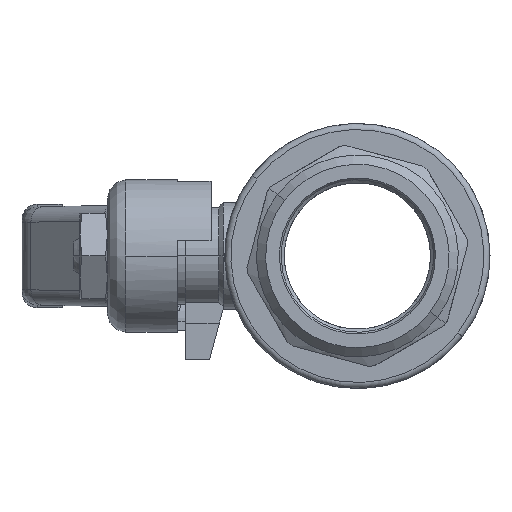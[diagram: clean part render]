
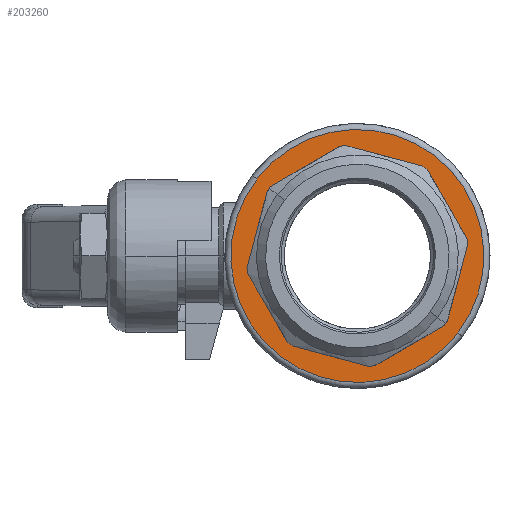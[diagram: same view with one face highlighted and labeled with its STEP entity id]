
A CAD part, left-side view. The second image highlights one B-rep face of the part: STEP entity #203260.
In plain terms, the highlighted planar face has unit normal (-1, 0, 0) as drawn and (1, 0, 0) by its records, which use the part's own axes.
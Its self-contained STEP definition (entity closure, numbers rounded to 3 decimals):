
#196640=CARTESIAN_POINT('',(20.,10.676,14.74));
#196650=VERTEX_POINT('',#196640);
#196680=CARTESIAN_POINT('',(20.,0.,
0.));
#196690=DIRECTION('',(1.,0.,0.));
#196700=DIRECTION('',(0.,-0.793,
0.609));
#196710=AXIS2_PLACEMENT_3D('',#196680,#196690,#196700);
#196720=CIRCLE('',#196710,18.2);
#196730=CARTESIAN_POINT('',(20.,11.471,14.13));
#196740=VERTEX_POINT('',#196730);
#196750=EDGE_CURVE('',#196740,#196650,#196720,.T.);
#196880=CARTESIAN_POINT('',(20.,11.2,14.6));
#196890=DIRECTION('',(0.,0.5,
-0.866));
#196900=VECTOR('',#196890,1.);
#196910=LINE('',#196880,#196900);
#196920=CARTESIAN_POINT('',(20.,17.972,2.874));
#196930=VERTEX_POINT('',#196920);
#196940=EDGE_CURVE('',#196740,#196930,#196910,.T.);
#197120=CARTESIAN_POINT('',(20.,0.,
0.));
#197130=DIRECTION('',(1.,0.,0.));
#197140=DIRECTION('',(0.,-0.793,
0.609));
#197150=AXIS2_PLACEMENT_3D('',#197120,#197130,#197140);
#197160=CIRCLE('',#197150,18.2);
#197170=CARTESIAN_POINT('',(20.,18.103,1.88));
#197180=VERTEX_POINT('',#197170);
#197190=EDGE_CURVE('',#197180,#196930,#197160,.T.);
#197320=CARTESIAN_POINT('',(20.,14.6,-11.2));
#197330=DIRECTION('',(0.,-0.259,
-0.966));
#197340=VECTOR('',#197330,1.);
#197350=LINE('',#197320,#197340);
#197360=CARTESIAN_POINT('',(20.,14.74,-10.676));
#197370=VERTEX_POINT('',#197360);
#197380=EDGE_CURVE('',#197180,#197370,#197350,.T.);
#197560=CARTESIAN_POINT('',(20.,0.,
0.));
#197570=DIRECTION('',(1.,0.,0.));
#197580=DIRECTION('',(0.,-0.793,
0.609));
#197590=AXIS2_PLACEMENT_3D('',#197560,#197570,#197580);
#197600=CIRCLE('',#197590,18.2);
#197610=CARTESIAN_POINT('',(20.,14.441,-11.077));
#197620=VERTEX_POINT('',#197610);
#197630=EDGE_CURVE('',#197620,#197370,#197600,.T.);
#197840=CARTESIAN_POINT('',(20.,2.874,-17.972));
#197850=VERTEX_POINT('',#197840);
#197900=CARTESIAN_POINT('',(20.,0.,
0.));
#197910=DIRECTION('',(1.,0.,0.));
#197920=DIRECTION('',(0.,-0.793,
0.609));
#197930=AXIS2_PLACEMENT_3D('',#197900,#197910,#197920);
#197940=CIRCLE('',#197930,18.2);
#197950=CARTESIAN_POINT('',(20.,1.88,-18.103));
#197960=VERTEX_POINT('',#197950);
#197970=EDGE_CURVE('',#197960,#197850,#197940,.T.);
#198230=CARTESIAN_POINT('',(20.,-11.2,-14.6));
#198240=DIRECTION('',(0.,-0.966,
0.259));
#198250=VECTOR('',#198240,1.);
#198260=LINE('',#198230,#198250);
#198270=CARTESIAN_POINT('',(20.,-10.676,-14.74));
#198280=VERTEX_POINT('',#198270);
#198290=EDGE_CURVE('',#197960,#198280,#198260,.T.);
#199010=CARTESIAN_POINT('',(20.,0.,
0.));
#199020=DIRECTION('',(1.,0.,0.));
#199030=DIRECTION('',(0.,-0.793,
0.609));
#199040=AXIS2_PLACEMENT_3D('',#199010,#199020,#199030);
#199050=CIRCLE('',#199040,18.2);
#199060=CARTESIAN_POINT('',(20.,-11.471,-14.13));
#199070=VERTEX_POINT('',#199060);
#199080=EDGE_CURVE('',#199070,#198280,#199050,.T.);
#199340=CARTESIAN_POINT('',(20.,-11.2,-14.6));
#199350=DIRECTION('',(0.,-0.5,
0.866));
#199360=VECTOR('',#199350,1.);
#199370=LINE('',#199340,#199360);
#199380=CARTESIAN_POINT('',(20.,-17.972,-2.874));
#199390=VERTEX_POINT('',#199380);
#199400=EDGE_CURVE('',#199070,#199390,#199370,.T.);
#200150=CARTESIAN_POINT('',(20.,14.13,-11.471));
#200160=VERTEX_POINT('',#200150);
#200210=CARTESIAN_POINT('',(20.,14.6,-11.2));
#200220=DIRECTION('',(0.,-0.866,
-0.5));
#200230=VECTOR('',#200220,1.);
#200240=LINE('',#200210,#200230);
#200250=EDGE_CURVE('',#200160,#197850,#200240,.T.);
#200930=CARTESIAN_POINT('',(20.,-2.874,17.972));
#200940=VERTEX_POINT('',#200930);
#200970=CARTESIAN_POINT('',(20.,0.,
0.));
#200980=DIRECTION('',(1.,0.,0.));
#200990=DIRECTION('',(0.,-0.793,
0.609));
#201000=AXIS2_PLACEMENT_3D('',#200970,#200980,#200990);
#201010=CIRCLE('',#201000,18.2);
#201020=CARTESIAN_POINT('',(20.,-1.88,18.103));
#201030=VERTEX_POINT('',#201020);
#201040=EDGE_CURVE('',#201030,#200940,#201010,.T.);
#201200=CARTESIAN_POINT('',(20.,-14.13,11.471));
#201210=VERTEX_POINT('',#201200);
#201240=CARTESIAN_POINT('',(20.,-14.6,11.2));
#201250=DIRECTION('',(0.,0.866,
0.5));
#201260=VECTOR('',#201250,1.);
#201270=LINE('',#201240,#201260);
#201280=EDGE_CURVE('',#201210,#200940,#201270,.T.);
#201440=CARTESIAN_POINT('',(20.,-18.103,-1.88));
#201450=VERTEX_POINT('',#201440);
#201500=CARTESIAN_POINT('',(20.,-14.6,11.2));
#201510=DIRECTION('',(0.,0.259,
0.966));
#201520=VECTOR('',#201510,1.);
#201530=LINE('',#201500,#201520);
#201540=CARTESIAN_POINT('',(20.,-14.74,10.676));
#201550=VERTEX_POINT('',#201540);
#201560=EDGE_CURVE('',#201450,#201550,#201530,.T.);
#202280=CARTESIAN_POINT('',(20.,0.,
0.));
#202290=DIRECTION('',(1.,0.,0.));
#202300=DIRECTION('',(0.,-0.793,
0.609));
#202310=AXIS2_PLACEMENT_3D('',#202280,#202290,#202300);
#202320=CIRCLE('',#202310,18.2);
#202330=CARTESIAN_POINT('',(20.,-14.441,11.077));
#202340=VERTEX_POINT('',#202330);
#202350=EDGE_CURVE('',#202340,#201550,#202320,.T.);
#202490=CARTESIAN_POINT('',(20.,11.2,14.6));
#202500=DIRECTION('',(0.,0.966,
-0.259));
#202510=VECTOR('',#202500,1.);
#202520=LINE('',#202490,#202510);
#202530=EDGE_CURVE('',#201030,#196650,#202520,.T.);
#202660=CARTESIAN_POINT('',(20.,0.,
0.));
#202670=DIRECTION('',(1.,0.,0.));
#202680=DIRECTION('',(0.,-0.793,
0.609));
#202690=AXIS2_PLACEMENT_3D('',#202660,#202670,#202680);
#202700=CIRCLE('',#202690,18.2);
#202710=EDGE_CURVE('',#201450,#199390,#202700,.T.);
#202840=CARTESIAN_POINT('',(20.,-0.594,-18.374));
#202850=DIRECTION('',(1.,0.,0.));
#202860=DIRECTION('',(0.,-0.793,
0.609));
#202870=AXIS2_PLACEMENT_3D('',#202840,#202850,#202860);
#202880=PLANE('',#202870);
#202890=CARTESIAN_POINT('',(20.,0.,
0.));
#202900=DIRECTION('',(-1.,0.,-0.));
#202910=DIRECTION('',(0.,-0.793,
0.609));
#202920=AXIS2_PLACEMENT_3D('',#202890,#202900,#202910);
#202930=CIRCLE('',#202920,20.75);
#202940=CARTESIAN_POINT('',(20.,-16.464,12.629));
#202950=VERTEX_POINT('',#202940);
#202960=CARTESIAN_POINT('',(20.,16.464,-12.629));
#202970=VERTEX_POINT('',#202960);
#202980=EDGE_CURVE('',#202950,#202970,#202930,.T.);
#202990=ORIENTED_EDGE('',*,*,#202980,.F.);
#203000=EDGE_CURVE('',#202970,#202950,#202930,.T.);
#203010=ORIENTED_EDGE('',*,*,#203000,.F.);
#203020=EDGE_LOOP('',(#203010,#202990));
#203030=FACE_OUTER_BOUND('',#203020,.T.);
#203040=ORIENTED_EDGE('',*,*,#201280,.T.);
#203050=EDGE_CURVE('',#201210,#202340,#202320,.T.);
#203060=ORIENTED_EDGE('',*,*,#203050,.F.);
#203070=ORIENTED_EDGE('',*,*,#202350,.F.);
#203080=ORIENTED_EDGE('',*,*,#201560,.T.);
#203090=ORIENTED_EDGE('',*,*,#202710,.F.);
#203100=ORIENTED_EDGE('',*,*,#199400,.T.);
#203110=ORIENTED_EDGE('',*,*,#199080,.F.);
#203120=ORIENTED_EDGE('',*,*,#198290,.T.);
#203130=ORIENTED_EDGE('',*,*,#197970,.F.);
#203140=ORIENTED_EDGE('',*,*,#200250,.T.);
#203150=EDGE_CURVE('',#200160,#197620,#197600,.T.);
#203160=ORIENTED_EDGE('',*,*,#203150,.F.);
#203170=ORIENTED_EDGE('',*,*,#197630,.F.);
#203180=ORIENTED_EDGE('',*,*,#197380,.T.);
#203190=ORIENTED_EDGE('',*,*,#197190,.F.);
#203200=ORIENTED_EDGE('',*,*,#196940,.T.);
#203210=ORIENTED_EDGE('',*,*,#196750,.F.);
#203220=ORIENTED_EDGE('',*,*,#202530,.T.);
#203230=ORIENTED_EDGE('',*,*,#201040,.F.);
#203240=EDGE_LOOP('',(#203230,#203220,#203210,#203200,#203190,#203180,
#203170,#203160,#203140,#203130,#203120,#203110,#203100,#203090,#203080,
#203070,#203060,#203040));
#203250=FACE_BOUND('',#203240,.T.);
#203260=ADVANCED_FACE('',(#203030,#203250),#202880,.T.);
